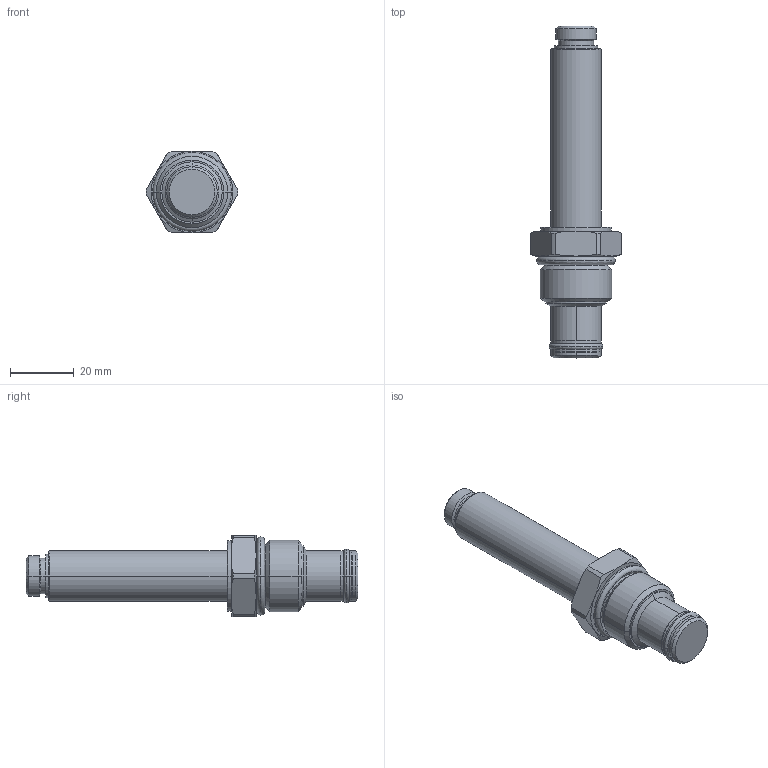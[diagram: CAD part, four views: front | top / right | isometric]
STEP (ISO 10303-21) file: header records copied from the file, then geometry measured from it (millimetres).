
FILE_DESCRIPTION((''),'2;1');
FILE_NAME('5024880_SW0001','2009-03-02T',('JCS'),(''),'PRO/ENGINEER BY PARAMETRIC TECHNOLOGY CORPORATION, 2008010','PRO/ENGINEER BY PARAMETRIC TECHNOLOGY CORPORATION, 2008010','');
FILE_SCHEMA(('CONFIG_CONTROL_DESIGN'));
Length unit declared in the file: inch
Products named in the file (1): 5024880_SW0001
Bounding box: 28.57 x 103.73 x 25.4 mm (x, y, z)
Volume: 25687.1 mm3; surface area: 7997.5 mm2
Topology: 3 solids, 3 shells, 114 faces, 244 edges, 142 vertices
Faces by surface type: cone 38, cylinder 32, plane 18, revolution 16, torus 10
Entity records: 3444 total; most frequent: CARTESIAN_POINT 914, DIRECTION 550, ORIENTED_EDGE 488, EDGE_CURVE 244, AXIS2_PLACEMENT_3D 232, VERTEX_POINT 142, CIRCLE 134, EDGE_LOOP 124
